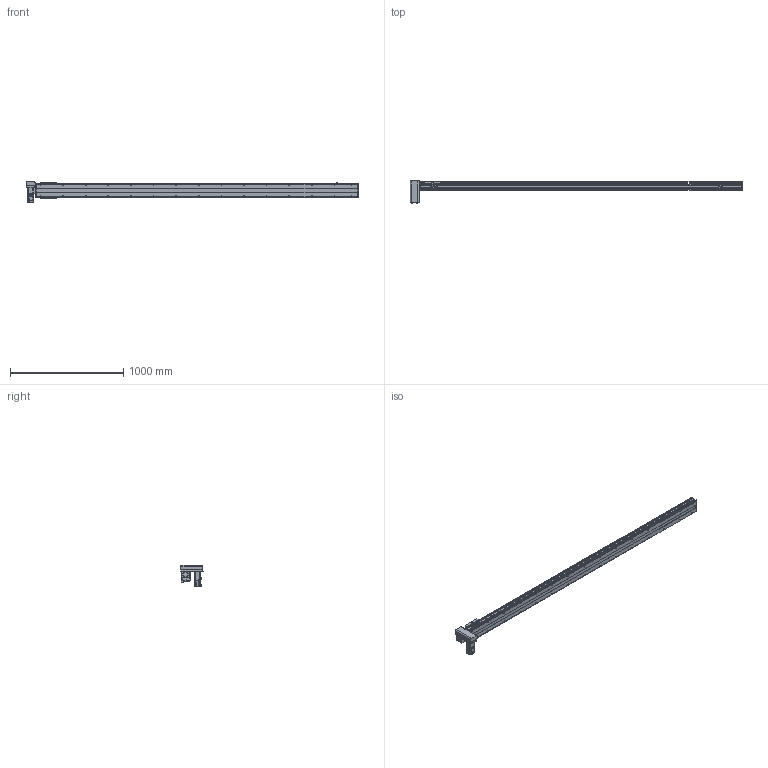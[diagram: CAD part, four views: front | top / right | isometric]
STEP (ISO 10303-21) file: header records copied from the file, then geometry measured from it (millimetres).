
FILE_DESCRIPTION(/* description */ ('STEP AP214'),/* implementation_level */ '2;1');
FILE_NAME(/* name */ 'PBS120-P40-S2550-RD-T40-C1-N(0)',/* time_stamp */ '2022-06-06T02:44:15+02:00',/* author */ ('License CC BY-ND 4.0'),/* organization */ ('CADENAS'),/* preprocessor_version */ 'ST-DEVELOPER v18.102',/* originating_system */ 'PARTsolutions',/* authorisation */ ' ');
FILE_SCHEMA (('AUTOMOTIVE_DESIGN {1 0 10303 214 3 1 1}'));
Length unit declared in the file: millimetre
Products named in the file (7): PBS120-P40-S2550-RD-T40-C1-N(0); PBS120_sensor; PBS120_plant; PBS120_sliser; T40-p1; PBS120T-RD_motors; PBS120-S2550()_body
Assembly tree (8 placements, depth 2):
  PBS120-P40-S2550-RD-T40-C1-N(0)
    PBS120_sensor  x3
    PBS120_plant
    PBS120_sliser
    T40-p1
    PBS120T-RD_motors
    PBS120-S2550()_body
Bounding box: 2936 x 196 x 189.7 mm (x, y, z)
Volume: 11006471 mm3; surface area: 2276891.2 mm2
Topology: 8 solids, 8 shells, 870 faces, 2226 edges, 1429 vertices
Faces by surface type: plane 563, cylinder 243, cone 62, torus 2
Full cylindrical faces by diameter (mm): 2.459 x6, 3.242 x4, 4 x2, 4.134 x4, 4.5 x10, 4.917 x34, 5.5 x11, 6 x2, 6.6 x1, 7 x2, 8.5 x4, 9 x4, 12 x1, 14 x1, 30 x2, 40 x1, 50 x2
Entity records: 22434 total; most frequent: DIRECTION 3908, CARTESIAN_POINT 3803, ORIENTED_EDGE 3586, EDGE_CURVE 1793, AXIS2_PLACEMENT_3D 1340, VERTEX_POINT 1235, LINE 1228, VECTOR 1228
